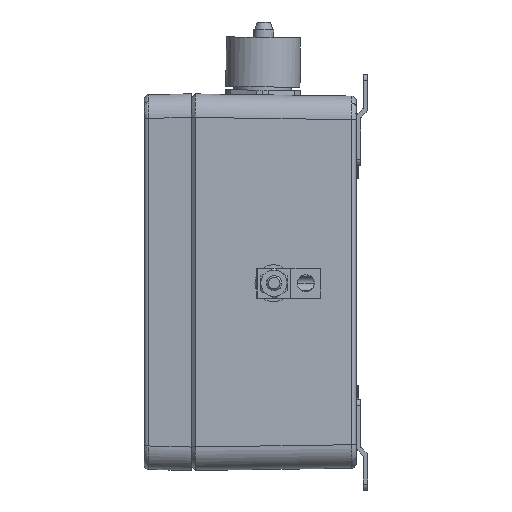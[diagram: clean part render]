
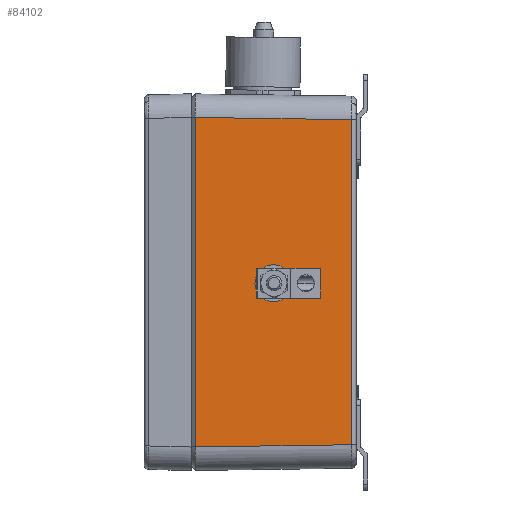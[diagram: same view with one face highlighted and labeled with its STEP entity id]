
A CAD part, left-side view. The second image highlights one B-rep face of the part: STEP entity #84102.
In plain terms, the highlighted planar face has unit normal (-1, -0.014, 0).
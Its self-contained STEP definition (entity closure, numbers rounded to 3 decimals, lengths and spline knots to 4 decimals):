
#3294 = DIRECTION ( 'NONE',  ( 0., 0., -1. ) ) ;
#3295 = DIRECTION ( 'NONE',  ( -1., -0.014, 0. ) ) ;
#3296 = CARTESIAN_POINT ( 'NONE',  ( -5.0979, -1.3744, -0.0181 ) ) ;
#3297 = AXIS2_PLACEMENT_3D ( 'NONE', #3296, #3295, #3294 ) ;
#3298 = CIRCLE ( 'NONE', #3297, 0.31 ) ;
#3462 = CARTESIAN_POINT ( 'NONE',  ( -5.0979, -1.3744, 0.2919 ) ) ;
#3508 = CARTESIAN_POINT ( 'NONE',  ( -5.0979, -1.3744, -0.3281 ) ) ;
#7207 = CARTESIAN_POINT ( 'NONE',  ( -5.0799, -2.6783, 2.7177 ) ) ;
#7208 = CARTESIAN_POINT ( 'NONE',  ( -5.0799, -2.6783, -2.7177 ) ) ;
#7241 = CARTESIAN_POINT ( 'NONE',  ( -5.116, -0.0705, -2.7539 ) ) ;
#7242 = DIRECTION ( 'NONE',  ( 0.014, -1., 0.014 ) ) ;
#7243 = VECTOR ( 'NONE', #7242, 39.3701 ) ;
#7244 = CARTESIAN_POINT ( 'NONE',  ( -5.116, -0.0705, -2.7539 ) ) ;
#7245 = LINE ( 'NONE', #7244, #7243 ) ;
#7412 = DIRECTION ( 'NONE',  ( 0.014, -1., -0.014 ) ) ;
#7413 = VECTOR ( 'NONE', #7412, 39.3701 ) ;
#7414 = CARTESIAN_POINT ( 'NONE',  ( -5.117, -0.0032, 2.7548 ) ) ;
#7419 = LINE ( 'NONE', #7414, #7413 ) ;
#7420 = DIRECTION ( 'NONE',  ( 0., 0., -1. ) ) ;
#7421 = VECTOR ( 'NONE', #7420, 39.3701 ) ;
#7422 = CARTESIAN_POINT ( 'NONE',  ( -5.0799, -2.6783, -3.1496 ) ) ;
#7423 = LINE ( 'NONE', #7422, #7421 ) ;
#7425 = DIRECTION ( 'NONE',  ( 0., 0., -1. ) ) ;
#7426 = VECTOR ( 'NONE', #7425, 39.3701 ) ;
#7427 = CARTESIAN_POINT ( 'NONE',  ( -5.116, -0.0705, -3.1496 ) ) ;
#7428 = LINE ( 'NONE', #7427, #7426 ) ;
#7433 = CARTESIAN_POINT ( 'NONE',  ( -5.116, -0.0705, 2.7539 ) ) ;
#7463 = DIRECTION ( 'NONE',  ( -1., -0.014, 0. ) ) ;
#7464 = CARTESIAN_POINT ( 'NONE',  ( -5.0979, -1.3744, -0.0181 ) ) ;
#7465 = AXIS2_PLACEMENT_3D ( 'NONE', #7464, #7463, #7470 ) ;
#7466 = CIRCLE ( 'NONE', #7465, 0.31 ) ;
#7470 = DIRECTION ( 'NONE',  ( 0., 0., -1. ) ) ;
#7515 = DIRECTION ( 'NONE',  ( 0.014, -1., 0. ) ) ;
#7516 = DIRECTION ( 'NONE',  ( -1., -0.014, 0. ) ) ;
#7517 = CARTESIAN_POINT ( 'NONE',  ( -5.1181, 0.0787, -3.1496 ) ) ;
#7518 = AXIS2_PLACEMENT_3D ( 'NONE', #7517, #7516, #7515 ) ;
#7519 = PLANE ( 'NONE',  #7518 ) ;
#7520 = FACE_BOUND ( 'NONE', #84049, .T. ) ;
#7521 = FACE_OUTER_BOUND ( 'NONE', #84103, .T. ) ;
#80293 = EDGE_CURVE ( 'NONE', #80382, #80361, #3298, .T. ) ;
#80361 = VERTEX_POINT ( 'NONE', #3462 ) ;
#80382 = VERTEX_POINT ( 'NONE', #3508 ) ;
#83933 = ORIENTED_EDGE ( 'NONE', *, *, #83940, .T. ) ;
#83940 = EDGE_CURVE ( 'NONE', #83942, #83944, #7245, .T. ) ;
#83942 = VERTEX_POINT ( 'NONE', #7241 ) ;
#83944 = VERTEX_POINT ( 'NONE', #7208 ) ;
#83947 = VERTEX_POINT ( 'NONE', #7207 ) ;
#83996 = ORIENTED_EDGE ( 'NONE', *, *, #84002, .F. ) ;
#84002 = EDGE_CURVE ( 'NONE', #83947, #83944, #7423, .T. ) ;
#84007 = ORIENTED_EDGE ( 'NONE', *, *, #84010, .F. ) ;
#84010 = EDGE_CURVE ( 'NONE', #84033, #83947, #7419, .T. ) ;
#84033 = VERTEX_POINT ( 'NONE', #7433 ) ;
#84042 = ORIENTED_EDGE ( 'NONE', *, *, #84044, .T. ) ;
#84044 = EDGE_CURVE ( 'NONE', #84033, #83942, #7428, .T. ) ;
#84049 = EDGE_LOOP ( 'NONE', ( #84053, #84058 ) ) ;
#84053 = ORIENTED_EDGE ( 'NONE', *, *, #80293, .F. ) ;
#84058 = ORIENTED_EDGE ( 'NONE', *, *, #84062, .F. ) ;
#84062 = EDGE_CURVE ( 'NONE', #80361, #80382, #7466, .T. ) ;
#84102 = ADVANCED_FACE ( 'NONE', ( #7521, #7520 ), #7519, .T. ) ;
#84103 = EDGE_LOOP ( 'NONE', ( #83933, #83996, #84007, #84042 ) ) ;
